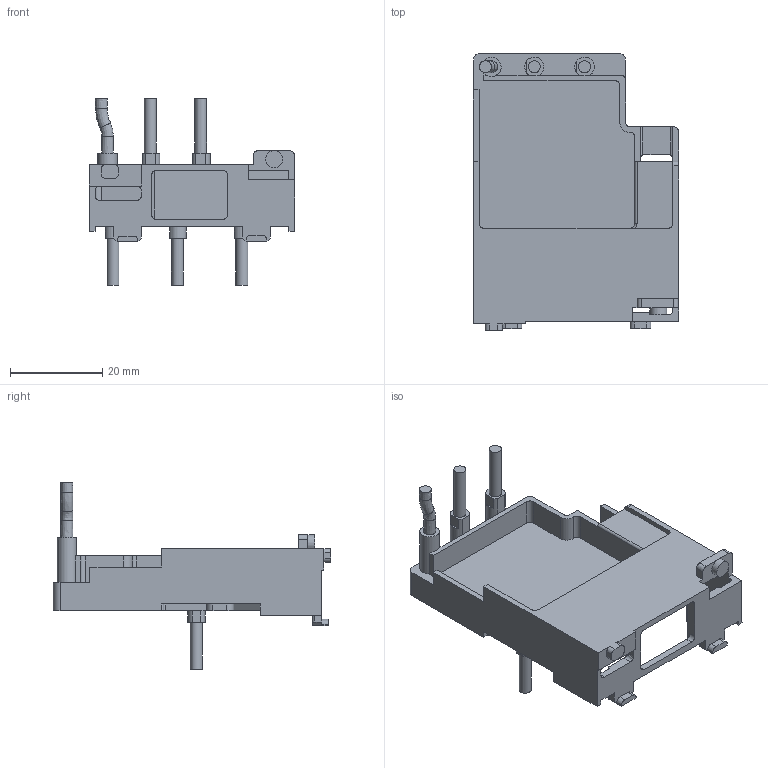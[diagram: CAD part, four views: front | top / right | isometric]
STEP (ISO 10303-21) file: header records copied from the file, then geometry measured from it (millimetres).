
FILE_DESCRIPTION(/* description */ (''),/* implementation_level */ '2;1');
FILE_NAME(/* name */ '140M-C-PEC23.stp',/* time_stamp */ '2012-06-12T12:42:41+02:00',/* author */ (''),/* organization */ (''),/* preprocessor_version */ 'ST-DEVELOPER v11',/* originating_system */ 'SIEMENS PLM Software NX 7.5',/* authorisation */ '');
FILE_SCHEMA (('AUTOMOTIVE_DESIGN { 1 0 10303 214 1 1 1 1 }'));
Length unit declared in the file: millimetre
Products named in the file (1): 140M-C-PEC23-C
Bounding box: 44.5 x 60.3 x 40.5 mm (x, y, z)
Volume: 13039.4 mm3; surface area: 12010.3 mm2
Topology: 1 solids, 1 shells, 209 faces, 594 edges, 390 vertices
Faces by surface type: plane 136, cylinder 50, extrusion 18, bspline 4, torus 1
Full cylindrical faces by diameter (mm): 2.6 x5, 3.7 x1, 4.2 x1
Entity records: 7198 total; most frequent: CARTESIAN_POINT 1563, ORIENTED_EDGE 1156, DIRECTION 1127, EDGE_CURVE 578, VECTOR 447, LINE 429, VERTEX_POINT 385, AXIS2_PLACEMENT_3D 340
